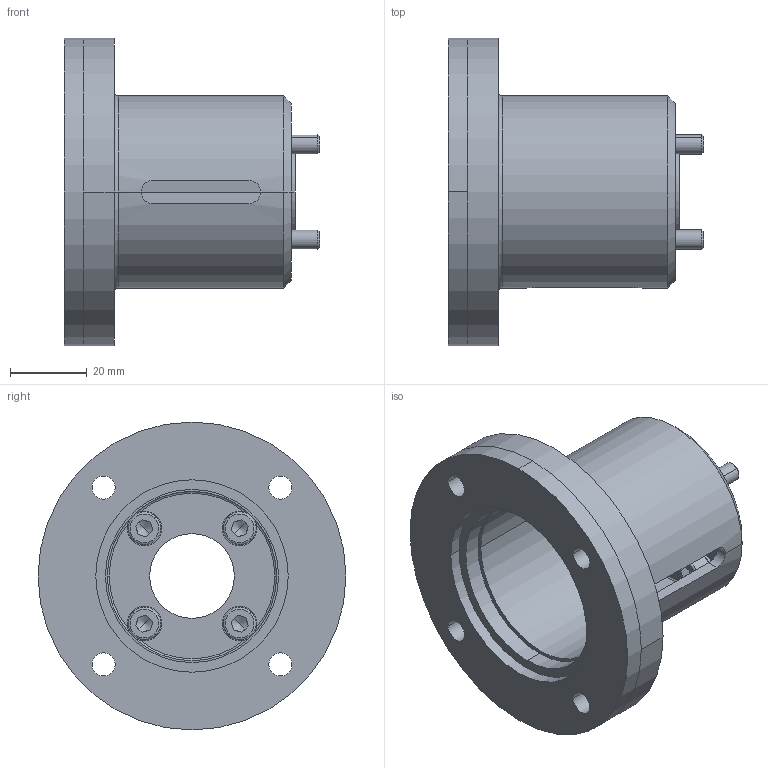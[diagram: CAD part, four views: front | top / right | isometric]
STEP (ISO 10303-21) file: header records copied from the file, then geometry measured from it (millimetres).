
FILE_DESCRIPTION (( 'STEP AP203' ), '1' );
FILE_NAME ('MG080.STEP', '2024-01-05T14:21:27', ( '' ), ( '' ), 'SwSTEP 2.0', 'SolidWorks 2022', '' );
FILE_SCHEMA (( 'CONFIG_CONTROL_DESIGN' ));
Length unit declared in the file: millimetre
Products named in the file (1): MG080
Bounding box: 66.4 x 80 x 80 mm (x, y, z)
Volume: 67243.3 mm3; surface area: 38399.7 mm2
Topology: 10 solids, 10 shells, 180 faces, 442 edges, 286 vertices
Faces by surface type: cylinder 86, plane 56, torus 20, cone 18
Entity records: 5527 total; most frequent: CARTESIAN_POINT 1037, DIRECTION 990, ORIENTED_EDGE 868, EDGE_CURVE 434, AXIS2_PLACEMENT_3D 415, VERTEX_POINT 286, EDGE_LOOP 238, CIRCLE 234
